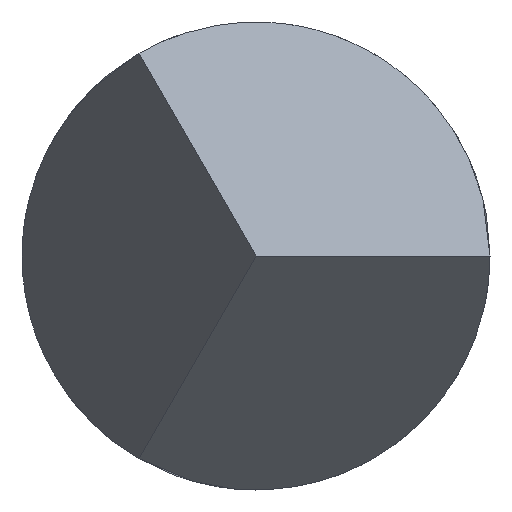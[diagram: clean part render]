
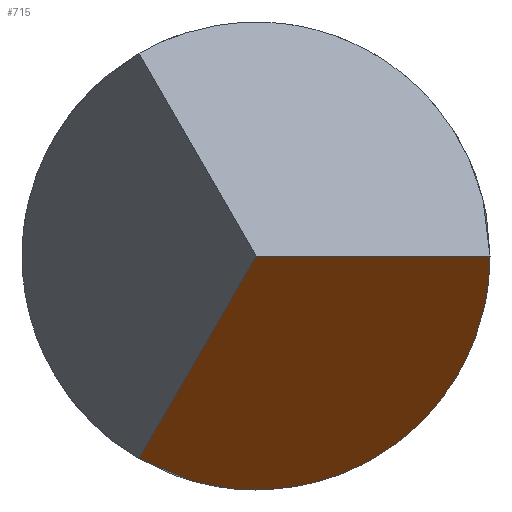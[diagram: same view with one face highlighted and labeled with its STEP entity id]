
A CAD part, left-side view. The second image highlights one B-rep face of the part: STEP entity #715.
In plain terms, the highlighted planar face has unit normal (-0.5, -0.433, -0.75).
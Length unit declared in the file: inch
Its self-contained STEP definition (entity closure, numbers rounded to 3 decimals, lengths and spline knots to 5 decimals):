
#19 = DIRECTION ( 'NONE',  ( 0.5, 0.433, 0.75 ) ) ;
#22 = VECTOR ( 'NONE', #769, 39.37008 ) ;
#53 = ORIENTED_EDGE ( 'NONE', *, *, #417, .F. ) ;
#82 = CARTESIAN_POINT ( 'NONE',  ( 0.03789, -0.0175, -0.01516 ) ) ;
#109 = EDGE_CURVE ( 'NONE', #846, #217, #516, .T. ) ;
#127 = AXIS2_PLACEMENT_3D ( 'NONE', #968, #19, #166 ) ;
#151 = VERTEX_POINT ( 'NONE', #422 ) ;
#166 = DIRECTION ( 'NONE',  ( 0.832, 0., -0.555 ) ) ;
#175 = CARTESIAN_POINT ( 'NONE',  ( 0.01516, -0.0175, 0. ) ) ;
#217 = VERTEX_POINT ( 'NONE', #763 ) ;
#225 = VECTOR ( 'NONE', #762, 39.37008 ) ;
#396 = CARTESIAN_POINT ( 'NONE',  ( 0.03789, -0.00438, -0.02273 ) ) ;
#417 = EDGE_CURVE ( 'NONE', #151, #846, #510, .T. ) ;
#422 = CARTESIAN_POINT ( 'NONE',  ( 0.01516, 0.00875, -0.01516 ) ) ;
#434 = FACE_OUTER_BOUND ( 'NONE', #791, .T. ) ;
#462 = PLANE ( 'NONE',  #127 ) ;
#510 = LINE ( 'NONE', #994, #22 ) ;
#516 = LINE ( 'NONE', #777, #225 ) ;
#643 = CARTESIAN_POINT ( 'NONE',  ( 0.01516, 0.00875, -0.01516 ) ) ;
#715 = ADVANCED_FACE ( 'NONE', ( #434 ), #462, .F. ) ;
#733 = EDGE_CURVE ( 'NONE', #151, #217, #745, .T. ) ;
#739 = CARTESIAN_POINT ( 'NONE',  ( 0., 0., 0. ) ) ;
#745 =( BOUNDED_CURVE ( )  B_SPLINE_CURVE ( 3, ( #643, #396, #82, #175 ),
 .UNSPECIFIED., .F., .T. ) 
 B_SPLINE_CURVE_WITH_KNOTS ( ( 4, 4 ),
 ( 2.0944, 4.18879 ),
 .UNSPECIFIED. ) 
 CURVE ( )  GEOMETRIC_REPRESENTATION_ITEM ( )  RATIONAL_B_SPLINE_CURVE ( ( 1., 0.667, 0.667, 1. ) ) 
 REPRESENTATION_ITEM ( '' )  );
#762 = DIRECTION ( 'NONE',  ( 0.655, -0.756, 0. ) ) ;
#763 = CARTESIAN_POINT ( 'NONE',  ( 0.01516, -0.0175, 0. ) ) ;
#769 = DIRECTION ( 'NONE',  ( -0.655, -0.378, 0.655 ) ) ;
#777 = CARTESIAN_POINT ( 'NONE',  ( 0., 0., 0. ) ) ;
#791 = EDGE_LOOP ( 'NONE', ( #53, #888, #1011 ) ) ;
#846 = VERTEX_POINT ( 'NONE', #739 ) ;
#888 = ORIENTED_EDGE ( 'NONE', *, *, #733, .T. ) ;
#968 = CARTESIAN_POINT ( 'NONE',  ( 0.00454, -0.01766, 0.00717 ) ) ;
#994 = CARTESIAN_POINT ( 'NONE',  ( 0.01516, 0.00875, -0.01516 ) ) ;
#1011 = ORIENTED_EDGE ( 'NONE', *, *, #109, .F. ) ;
